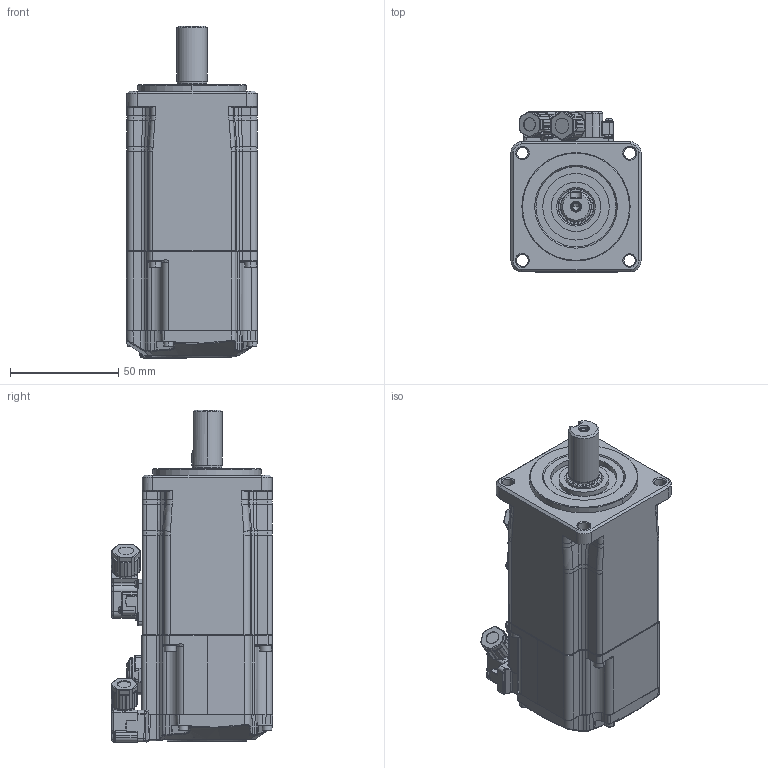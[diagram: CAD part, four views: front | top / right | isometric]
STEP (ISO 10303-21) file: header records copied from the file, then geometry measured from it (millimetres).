
FILE_DESCRIPTION((''),'2;1');
FILE_NAME('ECM-E3M-CX0604SBE_240408','2024-04-08T17:26:08',('SHIUNYI.LIN'),(''),'CREO PARAMETRIC BY PTC INC, 2020053','CREO PARAMETRIC BY PTC INC, 2020053','');
FILE_SCHEMA(('CONFIG_CONTROL_DESIGN'));
Products named in the file (1): ECM-E3M-CX0604SBE_240408
Bounding box: 60.6 x 74.4 x 153.2 mm (x, y, z)
Volume: 407640.7 mm3; surface area: 42563.8 mm2
Topology: 1 solids, 1 shells, 2464 faces, 6413 edges, 3976 vertices
Faces by surface type: plane 857, cylinder 753, torus 264, bspline 232, extrusion 218, cone 107, sphere 33
Entity records: 102140 total; most frequent: CARTESIAN_POINT 45029, ORIENTED_EDGE 12734, DIRECTION 10665, EDGE_CURVE 6367, VERTEX_POINT 3975, AXIS2_PLACEMENT_3D 3731, VECTOR 3203, LINE 2985
